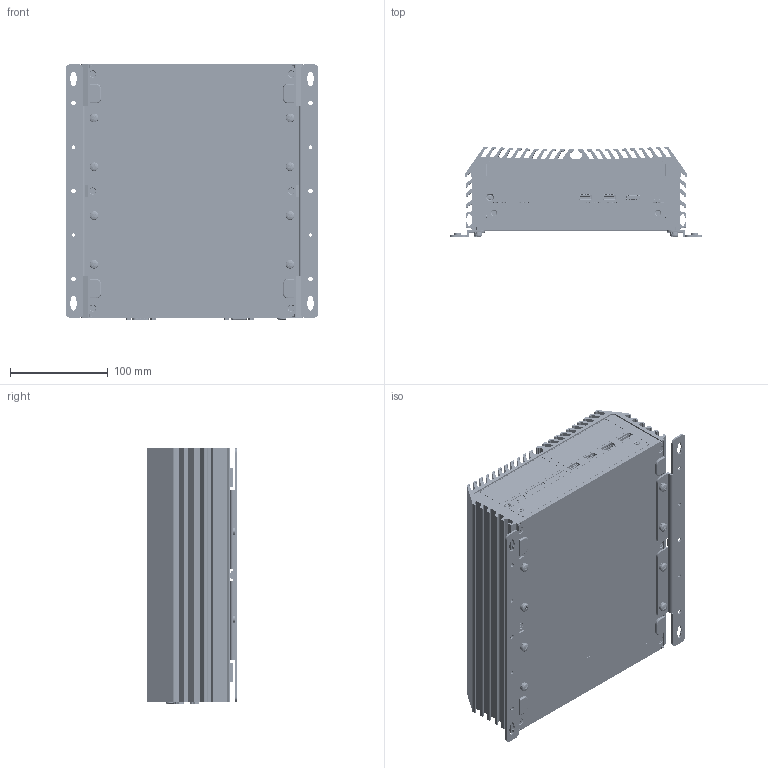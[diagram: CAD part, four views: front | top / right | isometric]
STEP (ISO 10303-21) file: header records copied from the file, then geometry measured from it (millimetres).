
FILE_DESCRIPTION (( 'STEP AP214' ), '1' );
FILE_NAME ('DS-1400-¼Ð·Ç-¥~Æ[-20230914.STEP', '2023-09-14T09:16:41', ( 'Owner' ), ( '' ), 'SwSTEP 2.0', 'SolidWorks 2014', '' );
FILE_SCHEMA (( 'AUTOMOTIVE_DESIGN' ));
Length unit declared in the file: millimetre
Products named in the file (34): Rubber Foot Shore(M4-RUFT0100001); USB-3.0-SMT-T.H(122-0921NX0504); DS-1200-Bottom Cover(M1-407120011200)-20180821; PWR_BTN_TC003; 23-D0341500030_DC_IN1_5EHDRM-03P_8; DS-1200-Top Cover asm-金金-20180402; 23-D0341500040_FAN2_ECH350R_3P_1LAYER; Top Cover(M1-407120006300)-DS-1200-金金-20181015; 23-D0242300200_DP1_DISPLAYPORT; D330H1SL72211DD0; DS-MEC KIT-Universal Bracket(M1-ZZZZ3613001); 23-D0351500040_CN2_MINIDIN_USBX2; 銅柱-4-4OUNC-4.8_11.8H(M3-COSD6L00000)東莞?輝; D20H1P1PA1X2A111N2 (3D); DS-1300-Rear Bezel(M1-407130034100)-20200311; AUTIO_2IN1; Screw-丸頭-十字-耐落-SW-M5x6(M3-SCREAB00001); 23-D0351500040_CN1_ECHB350R-04P; DS-1200-Front Bezel Matching Bezel(M1-407120084100); DS-Wall Mount Bracket(M1-ZZZZ3611004); DS-1300-Front Open Bezel(M1-407130084101); Hole Plugs(M4-RUBR0100004)-M06V0; DS-1400-標準-外觀-20230914; Screw-丸頭-十字-外齒-M5x8(M3-SCREAB00002); DS-1300-Front Bezel-symbol_panel(M0-ZZZZ5C30009)-20200923; Screw-沙拉-120-星型-T10+E型扣-黑-M3x13(M3-1103132270+M3-402004050415); DS-1300-Front Bezel(M1-407130024100)-20200311; Screw-耐落-沙拉-90-星型-T10-黑-M3x8(M3-N103082260); DS-1400-PCBA-ASM-20230419; Screw-耐落-沙拉-120-星型-T10-黑-M3x5(M3-N103052230); DS-1400-Main Board asm-20221108; RUM2JA-KFJC-BCB-0R; DS-1200-Bottom Cover asm-20200406; WHDM-19FLBSDR
Assembly tree (65 placements, depth 4):
  DS-1400-標準-外觀-20230914
    DS-1400-PCBA-ASM-20230419
      DS-1400-Main Board asm-20221108
        23-D0351500040_CN1_ECHB350R-04P
        AUTIO_2IN1
        D20H1P1PA1X2A111N2 (3D)
        23-D0351500040_CN2_MINIDIN_USBX2
        D330H1SL72211DD0
        23-D0242300200_DP1_DISPLAYPORT  x2
        23-D0341500040_FAN2_ECH350R_3P_1LAYER
        23-D0341500030_DC_IN1_5EHDRM-03P_8
        PWR_BTN_TC003
        USB-3.0-SMT-T.H(122-0921NX0504)  x2
        WHDM-19FLBSDR
        RUM2JA-KFJC-BCB-0R  x2
    DS-1300-Front Bezel(M1-407130024100)-20200311
    DS-1300-Front Bezel-symbol_panel(M0-ZZZZ5C30009)-20200923
    DS-1300-Front Open Bezel(M1-407130084101)
    DS-1200-Front Bezel Matching Bezel(M1-407120084100)  x2
    DS-1300-Rear Bezel(M1-407130034100)-20200311
    DS-MEC KIT-Universal Bracket(M1-ZZZZ3613001)  x2
    DS-1200-Top Cover asm-金金-20180402
      Top Cover(M1-407120006300)-DS-1200-金金-20181015
    DS-1200-Bottom Cover asm-20200406
      DS-1200-Bottom Cover(M1-407120011200)-20180821
      Rubber Foot Shore(M4-RUFT0100001)  x4
    Screw-耐落-沙拉-120-星型-T10-黑-M3x5(M3-N103052230)  x5
    Screw-耐落-沙拉-90-星型-T10-黑-M3x8(M3-N103082260)  x6
    Screw-沙拉-120-星型-T10+E型扣-黑-M3x13(M3-1103132270+M3-402004050415)  x2
    Screw-丸頭-十字-外齒-M5x8(M3-SCREAB00002)
    Hole Plugs(M4-RUBR0100004)-M06V0  x2
    DS-Wall Mount Bracket(M1-ZZZZ3611004)  x2
    Screw-丸頭-十字-耐落-SW-M5x6(M3-SCREAB00001)  x8
    銅柱-4-4OUNC-4.8_11.8H(M3-COSD6L00000)東莞?輝  x6
Bounding box: 259 x 92.78 x 262.9 mm (x, y, z)
Volume: 1277177.1 mm3; surface area: 709870.5 mm2
Topology: 91 solids, 259 shells, 23280 faces, 65341 edges, 42383 vertices
Faces by surface type: plane 15274, cylinder 5630, bspline 2098, cone 174, sphere 54, torus 50
Entity records: 672818 total; most frequent: CARTESIAN_POINT 189609, ORIENTED_EDGE 87422, DIRECTION 68595, EDGE_CURVE 43824, VECTOR 30195, LINE 30195, VERTEX_POINT 28439, AXIS2_PLACEMENT_3D 19200
